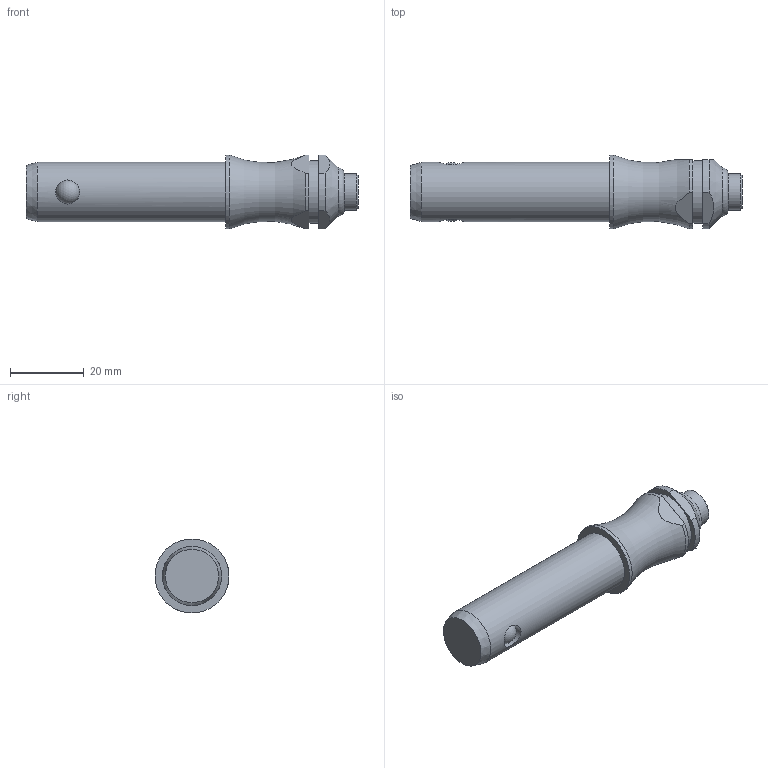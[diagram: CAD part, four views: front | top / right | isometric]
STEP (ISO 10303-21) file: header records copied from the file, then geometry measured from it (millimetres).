
FILE_DESCRIPTION( ( 'STEP AP203' ), '1' );
FILE_NAME( 'C:/Temp/Ganter_Step_05_03_2020/data/3_1/gn113_3/Stainless Steel-Ball lock pin GN 113.3-16-40 (activated).stp', '2020-03-12T08:18:52', ( 'License CC BY-ND 4.0' ), ( 'CADENAS' ), ' ', 'PARTsolutions', ' ' );
FILE_SCHEMA( ( 'CONFIG_CONTROL_DESIGN' ) );
Length unit declared in the file: millimetre
Products named in the file (1): _Stainless Steel-Ball lock pin GN 113.3-16-40 (activated)
Bounding box: 89.75 x 20 x 20 mm (x, y, z)
Volume: 18405.8 mm3; surface area: 5321.1 mm2
Topology: 1 solids, 1 shells, 30 faces, 68 edges, 43 vertices
Faces by surface type: cylinder 12, plane 11, cone 3, torus 2, sphere 2
Full cylindrical faces by diameter (mm): 6.5 x2, 10 x1, 16 x1, 17 x1, 20 x1
Entity records: 1014 total; most frequent: CARTESIAN_POINT 364, DIRECTION 130, ORIENTED_EDGE 102, AXIS2_PLACEMENT_3D 56, EDGE_CURVE 51, EDGE_LOOP 46, VERTEX_POINT 40, FACE_OUTER_BOUND 38
